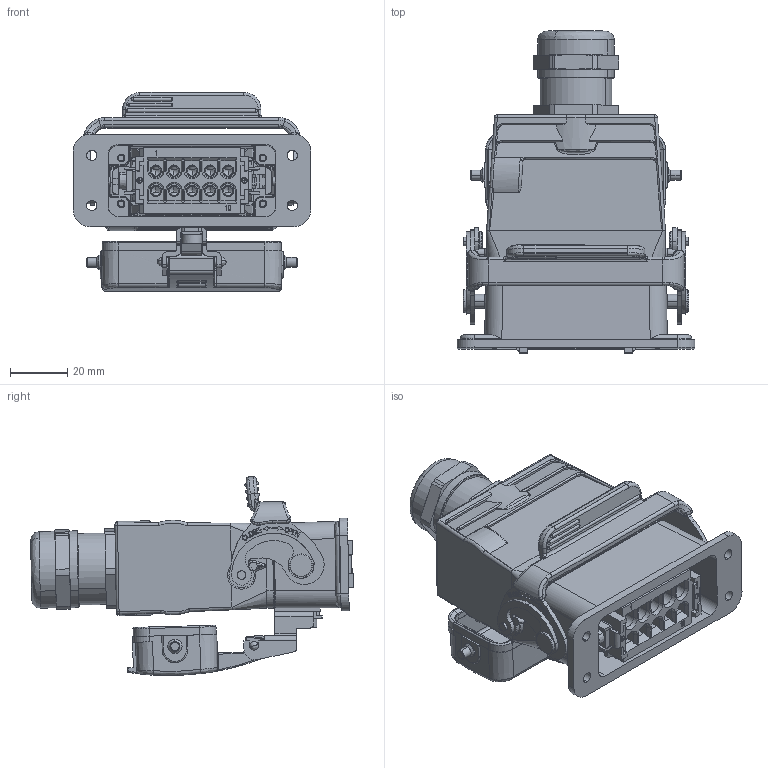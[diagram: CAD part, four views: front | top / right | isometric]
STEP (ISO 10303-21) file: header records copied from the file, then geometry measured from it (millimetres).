
FILE_DESCRIPTION (( 'STEP AP214' ), '1' );
FILE_NAME ('09010006120M H10A HA、10针、开孔袋盖底座、顶出M20套件、配金属接头.STEP', '2024-05-07T04:48:22', ( 'L' ), ( '' ), 'SwSTEP 2.0', 'SolidWorks 2019', '' );
FILE_SCHEMA (( 'AUTOMOTIVE_DESIGN' ));
Length unit declared in the file: millimetre
Products named in the file (7): FAS-20-M.step; H10A-TG-M20.step.STEP; HA-010-M.stp.STEP; 09010006120 H10A  HA、10针、开孔袋盖底座、顶出M20套件.STEP; H10A-AD.step.STEP; 09010006120M H10A  HA、10针、开孔袋盖底座、顶出M20套件、配金属接头; HA-010-F.stp.STEP
Assembly tree (6 placements, depth 3):
  09010006120M H10A  HA、10针、开孔袋盖底座、顶出M20套件、配金属接头
    09010006120 H10A  HA、10针、开孔袋盖底座、顶出M20套件.STEP
      H10A-AD.step.STEP
      HA-010-M.stp.STEP
      HA-010-F.stp.STEP
      H10A-TG-M20.step.STEP
    FAS-20-M.step
Bounding box: 83 x 112.71 x 69.52 mm (x, y, z)
Volume: 127678.4 mm3; surface area: 84857.7 mm2
Topology: 7 solids, 12 shells, 3723 faces, 9914 edges, 6301 vertices
Faces by surface type: plane 1811, cylinder 997, bspline 465, cone 319, torus 83, sphere 48
Full cylindrical faces by diameter (mm): 0.4 x2
Entity records: 140442 total; most frequent: CARTESIAN_POINT 51945, ORIENTED_EDGE 19538, DIRECTION 16660, EDGE_CURVE 9769, VERTEX_POINT 6302, VECTOR 5582, LINE 5582, AXIS2_PLACEMENT_3D 5539
